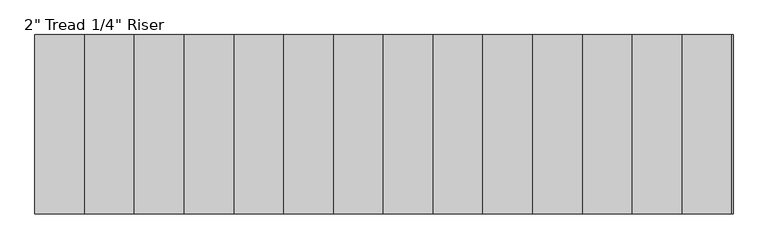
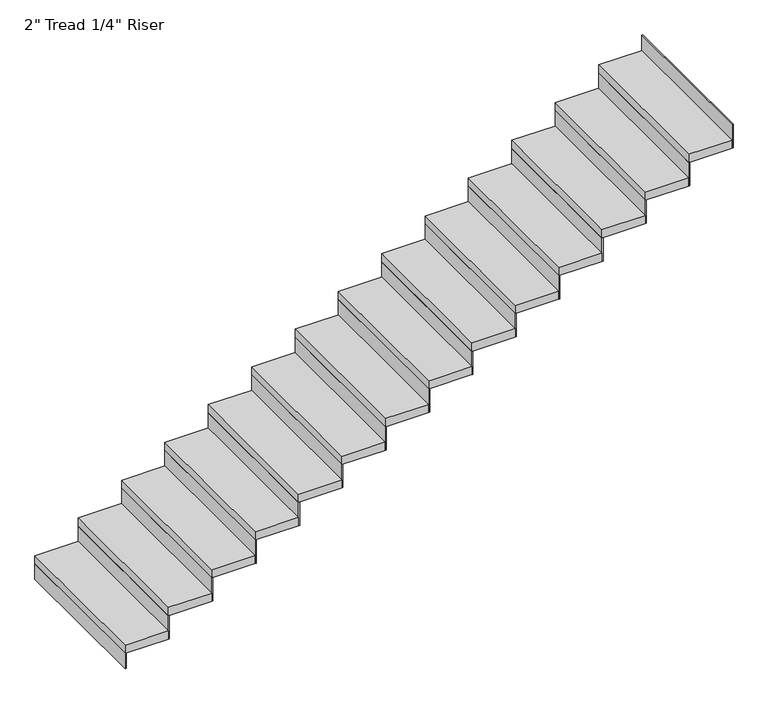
"""IFC4 building model written with IfcOpenShell, lengths in millimetres: stair flight geometry."""

import ifcopenshell
import ifcopenshell.guid

model = None  # the IFC model being written
_history = None  # IfcOwnerHistory: only IFC2X3 demands one
_inside = {}  # id of a spatial element -> (the spatial element, [elements in it])
_under = {}  # id of a project, library or spatial element -> (it, [spatial elements below it])
_declared = {}  # id of a project -> (the project, [libraries it declares])
_typed = {}  # id of a type object -> (the type object, [elements of that type])
_made_of = {}  # id of a material, layer set ... -> (it, [elements and type objects made of it])


def new_model(schema):
    """Start an empty IFC model of exactly this schema.

    Asked for "IFC4X3", IfcOpenShell would pick the latest addendum, in which some entities
    have other attributes; the version numbers below select the first issue.
    IFC2X3 requires an IfcOwnerHistory on every rooted entity: one is made here for all.
    """
    global model, _history
    if schema == "IFC4X3":
        model = ifcopenshell.file(schema_version=(4, 3, 0, 0))
    else:
        model = ifcopenshell.file(schema=schema)
    _inside.clear()
    _under.clear()
    _declared.clear()
    _typed.clear()
    _made_of.clear()
    _history = None
    if model.schema == "IFC2X3":
        org = make("IfcOrganization", Name="unknown")
        user = make(
            "IfcPersonAndOrganization",
            ThePerson=make("IfcPerson", FamilyName="unknown"),
            TheOrganization=org,
        )
        app = make(
            "IfcApplication",
            ApplicationDeveloper=org,
            Version="unknown",
            ApplicationFullName="unknown",
            ApplicationIdentifier="unknown",
        )
        _history = make(
            "IfcOwnerHistory",
            OwningUser=user,
            OwningApplication=app,
            ChangeAction="ADDED",
            CreationDate=0,
        )
    return model


def make(cls, **values):
    """One entity of the class cls with the attributes given. An attribute that is None is left unset."""
    return model.create_entity(
        cls, **{name: value for name, value in values.items() if value is not None}
    )


def rooted(cls, **values):
    """An entity with a GlobalId (a new one), such as an element, a storey or a relation."""
    return make(cls, GlobalId=ifcopenshell.guid.new(), OwnerHistory=_history, **values)


def si_unit(unit_type, name, prefix=None):
    """IfcSIUnit, for example si_unit("LENGTHUNIT", "METRE", prefix="MILLI")."""
    return make("IfcSIUnit", UnitType=unit_type, Prefix=prefix, Name=name)


def assignment(units):
    """IfcUnitAssignment: the units of a project."""
    return None if units is None else make("IfcUnitAssignment", Units=units)


def point(xyz):
    """IfcCartesianPoint."""
    return None if xyz is None else make("IfcCartesianPoint", Coordinates=xyz)


def direction(xyz):
    """IfcDirection."""
    return None if xyz is None else make("IfcDirection", DirectionRatios=xyz)


def frame(location, z_axis=None, x_axis=None):
    """IfcAxis2Placement3D, a coordinate frame: its origin and axes. An axis left out is left unset."""
    return make(
        "IfcAxis2Placement3D",
        Location=point(location),
        Axis=direction(z_axis),
        RefDirection=direction(x_axis),
    )


def origin():
    """The frame at (0, 0, 0) with its axes left unset."""
    return frame((0.0, 0.0, 0.0))


def origin_with_axes():
    """The frame at (0, 0, 0) with the z axis (0, 0, 1) and the x axis (1, 0, 0) written out."""
    return frame((0.0, 0.0, 0.0), z_axis=(0.0, 0.0, 1.0), x_axis=(1.0, 0.0, 0.0))


def place(relative_to, where):
    """IfcLocalPlacement: puts the frame where relative to a parent placement (None: the world)."""
    return make(
        "IfcLocalPlacement", PlacementRelTo=relative_to, RelativePlacement=where
    )


def context(
    kind, dimensions, precision=None, world=None, true_north=None, identifier=None
):
    """IfcGeometricRepresentationContext, for example the 3D "Model" context."""
    return make(
        "IfcGeometricRepresentationContext",
        ContextIdentifier=identifier,
        ContextType=kind,
        CoordinateSpaceDimension=dimensions,
        Precision=precision,
        WorldCoordinateSystem=world,
        TrueNorth=true_north,
    )


def project(units=None, contexts=None):
    """IfcProject with its units and contexts."""
    return rooted(
        "IfcProject",
        Name="project",
        RepresentationContexts=contexts,
        UnitsInContext=assignment(units),
    )


def spatial(cls, under=None, at=None, **own):
    """A site, building, storey or space (cls), placed at a placement, below another one or the project."""
    s = rooted(cls, ObjectPlacement=at, **own)
    if under is not None:
        _under.setdefault(under.id(), (under, []))[1].append(s)
    return s


def polyline(points):
    """IfcPolyline through the points."""
    return make("IfcPolyline", Points=[point(p) for p in points])


def outline(outer, holes=None, kind="AREA"):
    """IfcArbitraryClosedProfileDef: a profile drawn as a closed curve; with holes, ...WithVoids."""
    if holes is None:
        return make("IfcArbitraryClosedProfileDef", ProfileType=kind, OuterCurve=outer)
    return make(
        "IfcArbitraryProfileDefWithVoids",
        ProfileType=kind,
        OuterCurve=outer,
        InnerCurves=holes,
    )


def extrude(swept, where, along, depth):
    """IfcExtrudedAreaSolid: the profile swept, set in the frame where, extruded along a direction by depth."""
    return make(
        "IfcExtrudedAreaSolid",
        SweptArea=swept,
        Position=where,
        ExtrudedDirection=direction(along),
        Depth=depth,
    )


def shape(context_of_items, identifier, shape_type, items):
    """IfcShapeRepresentation: the items that make up one representation, for example the "Body"."""
    return make(
        "IfcShapeRepresentation",
        ContextOfItems=context_of_items,
        RepresentationIdentifier=identifier,
        RepresentationType=shape_type,
        Items=items,
    )


def source(mapping_origin, context_of_items, identifier, shape_type, items):
    """IfcRepresentationMap: a shape defined once, which mapped items show again and again."""
    return make(
        "IfcRepresentationMap",
        MappingOrigin=mapping_origin,
        MappedRepresentation=shape(context_of_items, identifier, shape_type, items),
    )


def transform(
    local_origin,
    x_axis=None,
    y_axis=None,
    z_axis=None,
    scale=None,
    scale2=None,
    scale3=None,
    uniform=True,
):
    """IfcCartesianTransformationOperator3D, or its non-uniform kind. x_axis, y_axis, z_axis: its Axis1, 2, 3."""
    if uniform:
        return make(
            "IfcCartesianTransformationOperator3D",
            Axis1=direction(x_axis),
            Axis2=direction(y_axis),
            LocalOrigin=point(local_origin),
            Scale=scale,
            Axis3=direction(z_axis),
        )
    return make(
        "IfcCartesianTransformationOperator3DnonUniform",
        Axis1=direction(x_axis),
        Axis2=direction(y_axis),
        LocalOrigin=point(local_origin),
        Scale=scale,
        Axis3=direction(z_axis),
        Scale2=scale2,
        Scale3=scale3,
    )


def mapped(mapping_source, mapping_target):
    """IfcMappedItem: shows the shape of a source again, moved by a transform."""
    return make(
        "IfcMappedItem", MappingSource=mapping_source, MappingTarget=mapping_target
    )


def made_of(thing, what):
    """Note that an element or type object is made of a material, layer set ...; save() writes the relation."""
    if what is not None:
        _made_of.setdefault(what.id(), (what, []))[1].append(thing)
    return thing


def element(
    cls,
    number,
    at=None,
    inside=None,
    cuts=None,
    type_object=None,
    material=None,
    context=None,
    identifier="Body",
    shape_type=None,
    held_by="IfcProductDefinitionShape",
    body=None,
    shapes=None,
    **own,
):
    """One element of the class cls, such as IfcWall. Its Tag is "e" and its number.

    at: its placement. inside: the storey or other place that contains it. cuts: it is an
    opening in that element (IfcRelVoidsElement). A single representation is given by context,
    identifier, shape_type and body (its items); several are given by shapes. held_by: the class
    of the entity that holds the representations. save() writes the other relations.
    """
    e = rooted(cls, Tag="e%d" % number, ObjectPlacement=at, **own)
    if body is not None:
        shapes = [shape(context, identifier, shape_type, body)]
    if shapes is not None:
        e.Representation = make(held_by, Representations=shapes)
    if inside is not None:
        _inside.setdefault(inside.id(), (inside, []))[1].append(e)
    if cuts is not None:
        rooted(
            "IfcRelVoidsElement", RelatingBuildingElement=cuts, RelatedOpeningElement=e
        )
    if type_object is not None:
        _typed.setdefault(type_object.id(), (type_object, []))[1].append(e)
    return made_of(e, material)


def aggregate(whole, parts):
    """IfcRelAggregates: a whole, such as a stair, and the parts it consists of."""
    return rooted("IfcRelAggregates", RelatingObject=whole, RelatedObjects=parts)


def save(model, path):
    """Write the relations noted so far, then the file.

    IfcRelAggregates (storeys below a building ...), IfcRelContainedInSpatialStructure (elements
    in a storey), IfcRelDefinesByType, IfcRelAssociatesMaterial and IfcRelDeclares: one each for
    every whole, place, type object, material and project.
    """
    for whole, parts in _under.values():
        aggregate(whole, parts)
    for where, things in _inside.values():
        rooted(
            "IfcRelContainedInSpatialStructure",
            RelatedElements=things,
            RelatingStructure=where,
        )
    for kind, things in _typed.values():
        rooted("IfcRelDefinesByType", RelatedObjects=things, RelatingType=kind)
    for what, things in _made_of.values():
        rooted("IfcRelAssociatesMaterial", RelatedObjects=things, RelatingMaterial=what)
    for by, libraries in _declared.values():
        rooted("IfcRelDeclares", RelatingContext=by, RelatedDefinitions=libraries)
    model.write(path)


def stair_flight_93a57281(model_context):
    return source(origin(), model_context, "Body", "SweptSolid", [
        extrude(outline(polyline([(-2451.0963139, 43330.9361774), (-2457.4463139, 43330.9361774), (-2457.4463139, 44245.3361774), (-2451.0963139, 44245.3361774), (-2451.0963139, 43330.9361774)])), origin_with_axes(), (0.0, 0.0, 1.0), 94.3428571),
        extrude(outline(polyline([(-2203.4463139, 44245.3361774), (-2203.4463139, 43330.9361774), (-2457.4463139, 43330.9361774), (-2457.4463139, 44245.3361774), (-2203.4463139, 44245.3361774)])), frame((0.0, 0.0, 94.3428571), z_axis=(0.0, 0.0, 1.0), x_axis=(1.0, 0.0, 0.0)), (0.0, 0.0, 1.0), 50.8),
        extrude(outline(polyline([(-2197.0963139, 43330.9361774), (-2203.4463139, 43330.9361774), (-2203.4463139, 44245.3361774), (-2197.0963139, 44245.3361774), (-2197.0963139, 43330.9361774)])), frame((0.0, 0.0, 94.3428571), z_axis=(0.0, 0.0, 1.0), x_axis=(1.0, 0.0, 0.0)), (0.0, 0.0, 1.0), 145.1428571),
        extrude(outline(polyline([(-1949.4463139, 44245.3361774), (-1949.4463139, 43330.9361774), (-2203.4463139, 43330.9361774), (-2203.4463139, 44245.3361774), (-1949.4463139, 44245.3361774)])), frame((0.0, 0.0, 239.4857143), z_axis=(0.0, 0.0, 1.0), x_axis=(1.0, 0.0, 0.0)), (0.0, 0.0, 1.0), 50.8),
        extrude(outline(polyline([(-1943.0963139, 43330.9361774), (-1949.4463139, 43330.9361774), (-1949.4463139, 44245.3361774), (-1943.0963139, 44245.3361774), (-1943.0963139, 43330.9361774)])), frame((0.0, 0.0, 239.4857143), z_axis=(0.0, 0.0, 1.0), x_axis=(1.0, 0.0, 0.0)), (0.0, 0.0, 1.0), 145.1428571),
        extrude(outline(polyline([(-1695.4463139, 44245.3361774), (-1695.4463139, 43330.9361774), (-1949.4463139, 43330.9361774), (-1949.4463139, 44245.3361774), (-1695.4463139, 44245.3361774)])), frame((0.0, 0.0, 384.6285714), z_axis=(0.0, 0.0, 1.0), x_axis=(1.0, 0.0, 0.0)), (0.0, 0.0, 1.0), 50.8),
        extrude(outline(polyline([(-1689.0963139, 43330.9361774), (-1695.4463139, 43330.9361774), (-1695.4463139, 44245.3361774), (-1689.0963139, 44245.3361774), (-1689.0963139, 43330.9361774)])), frame((0.0, 0.0, 384.6285714), z_axis=(0.0, 0.0, 1.0), x_axis=(1.0, 0.0, 0.0)), (0.0, 0.0, 1.0), 145.1428571),
        extrude(outline(polyline([(-1441.4463139, 44245.3361774), (-1441.4463139, 43330.9361774), (-1695.4463139, 43330.9361774), (-1695.4463139, 44245.3361774), (-1441.4463139, 44245.3361774)])), frame((0.0, 0.0, 529.7714286), z_axis=(0.0, 0.0, 1.0), x_axis=(1.0, 0.0, 0.0)), (0.0, 0.0, 1.0), 50.8),
        extrude(outline(polyline([(-1435.0963139, 43330.9361774), (-1441.4463139, 43330.9361774), (-1441.4463139, 44245.3361774), (-1435.0963139, 44245.3361774), (-1435.0963139, 43330.9361774)])), frame((0.0, 0.0, 529.7714286), z_axis=(0.0, 0.0, 1.0), x_axis=(1.0, 0.0, 0.0)), (0.0, 0.0, 1.0), 145.1428571),
        extrude(outline(polyline([(-1187.4463139, 44245.3361774), (-1187.4463139, 43330.9361774), (-1441.4463139, 43330.9361774), (-1441.4463139, 44245.3361774), (-1187.4463139, 44245.3361774)])), frame((0.0, 0.0, 674.9142857), z_axis=(0.0, 0.0, 1.0), x_axis=(1.0, 0.0, 0.0)), (0.0, 0.0, 1.0), 50.8),
        extrude(outline(polyline([(-1181.0963139, 43330.9361774), (-1187.4463139, 43330.9361774), (-1187.4463139, 44245.3361774), (-1181.0963139, 44245.3361774), (-1181.0963139, 43330.9361774)])), frame((0.0, 0.0, 674.9142857), z_axis=(0.0, 0.0, 1.0), x_axis=(1.0, 0.0, 0.0)), (0.0, 0.0, 1.0), 145.1428571),
        extrude(outline(polyline([(-933.4463139, 44245.3361774), (-933.4463139, 43330.9361774), (-1187.4463139, 43330.9361774), (-1187.4463139, 44245.3361774), (-933.4463139, 44245.3361774)])), frame((0.0, 0.0, 820.0571429), z_axis=(0.0, 0.0, 1.0), x_axis=(1.0, 0.0, 0.0)), (0.0, 0.0, 1.0), 50.8),
        extrude(outline(polyline([(-927.0963139, 43330.9361774), (-933.4463139, 43330.9361774), (-933.4463139, 44245.3361774), (-927.0963139, 44245.3361774), (-927.0963139, 43330.9361774)])), frame((0.0, 0.0, 820.0571429), z_axis=(0.0, 0.0, 1.0), x_axis=(1.0, 0.0, 0.0)), (0.0, 0.0, 1.0), 145.1428571),
        extrude(outline(polyline([(-679.4463139, 44245.3361774), (-679.4463139, 43330.9361774), (-933.4463139, 43330.9361774), (-933.4463139, 44245.3361774), (-679.4463139, 44245.3361774)])), frame((0.0, 0.0, 965.2), z_axis=(0.0, 0.0, 1.0), x_axis=(1.0, 0.0, 0.0)), (0.0, 0.0, 1.0), 50.8),
        extrude(outline(polyline([(-673.0963139, 43330.9361774), (-679.4463139, 43330.9361774), (-679.4463139, 44245.3361774), (-673.0963139, 44245.3361774), (-673.0963139, 43330.9361774)])), frame((0.0, 0.0, 965.2), z_axis=(0.0, 0.0, 1.0), x_axis=(1.0, 0.0, 0.0)), (0.0, 0.0, 1.0), 145.1428571),
        extrude(outline(polyline([(-425.4463139, 44245.3361774), (-425.4463139, 43330.9361774), (-679.4463139, 43330.9361774), (-679.4463139, 44245.3361774), (-425.4463139, 44245.3361774)])), frame((0.0, 0.0, 1110.3428571), z_axis=(0.0, 0.0, 1.0), x_axis=(1.0, 0.0, 0.0)), (0.0, 0.0, 1.0), 50.8),
        extrude(outline(polyline([(-419.0963139, 43330.9361774), (-425.4463139, 43330.9361774), (-425.4463139, 44245.3361774), (-419.0963139, 44245.3361774), (-419.0963139, 43330.9361774)])), frame((0.0, 0.0, 1110.3428571), z_axis=(0.0, 0.0, 1.0), x_axis=(1.0, 0.0, 0.0)), (0.0, 0.0, 1.0), 145.1428571),
        extrude(outline(polyline([(-171.4463139, 44245.3361774), (-171.4463139, 43330.9361774), (-425.4463139, 43330.9361774), (-425.4463139, 44245.3361774), (-171.4463139, 44245.3361774)])), frame((0.0, 0.0, 1255.4857143), z_axis=(0.0, 0.0, 1.0), x_axis=(1.0, 0.0, 0.0)), (0.0, 0.0, 1.0), 50.8),
        extrude(outline(polyline([(-165.0963139, 43330.9361774), (-171.4463139, 43330.9361774), (-171.4463139, 44245.3361774), (-165.0963139, 44245.3361774), (-165.0963139, 43330.9361774)])), frame((0.0, 0.0, 1255.4857143), z_axis=(0.0, 0.0, 1.0), x_axis=(1.0, 0.0, 0.0)), (0.0, 0.0, 1.0), 145.1428571),
        extrude(outline(polyline([(82.5536861, 44245.3361774), (82.5536861, 43330.9361774), (-171.4463139, 43330.9361774), (-171.4463139, 44245.3361774), (82.5536861, 44245.3361774)])), frame((0.0, 0.0, 1400.6285714), z_axis=(0.0, 0.0, 1.0), x_axis=(1.0, 0.0, 0.0)), (0.0, 0.0, 1.0), 50.8),
        extrude(outline(polyline([(88.9036861, 43330.9361774), (82.5536861, 43330.9361774), (82.5536861, 44245.3361774), (88.9036861, 44245.3361774), (88.9036861, 43330.9361774)])), frame((0.0, 0.0, 1400.6285714), z_axis=(0.0, 0.0, 1.0), x_axis=(1.0, 0.0, 0.0)), (0.0, 0.0, 1.0), 145.1428571),
        extrude(outline(polyline([(336.5536861, 44245.3361774), (336.5536861, 43330.9361774), (82.5536861, 43330.9361774), (82.5536861, 44245.3361774), (336.5536861, 44245.3361774)])), frame((0.0, 0.0, 1545.7714286), z_axis=(0.0, 0.0, 1.0), x_axis=(1.0, 0.0, 0.0)), (0.0, 0.0, 1.0), 50.8),
        extrude(outline(polyline([(342.9036861, 43330.9361774), (336.5536861, 43330.9361774), (336.5536861, 44245.3361774), (342.9036861, 44245.3361774), (342.9036861, 43330.9361774)])), frame((0.0, 0.0, 1545.7714286), z_axis=(0.0, 0.0, 1.0), x_axis=(1.0, 0.0, 0.0)), (0.0, 0.0, 1.0), 145.1428571),
        extrude(outline(polyline([(590.5536861, 44245.3361774), (590.5536861, 43330.9361774), (336.5536861, 43330.9361774), (336.5536861, 44245.3361774), (590.5536861, 44245.3361774)])), frame((0.0, 0.0, 1690.9142857), z_axis=(0.0, 0.0, 1.0), x_axis=(1.0, 0.0, 0.0)), (0.0, 0.0, 1.0), 50.8),
        extrude(outline(polyline([(596.9036861, 43330.9361774), (590.5536861, 43330.9361774), (590.5536861, 44245.3361774), (596.9036861, 44245.3361774), (596.9036861, 43330.9361774)])), frame((0.0, 0.0, 1690.9142857), z_axis=(0.0, 0.0, 1.0), x_axis=(1.0, 0.0, 0.0)), (0.0, 0.0, 1.0), 145.1428571),
        extrude(outline(polyline([(844.5536861, 44245.3361774), (844.5536861, 43330.9361774), (590.5536861, 43330.9361774), (590.5536861, 44245.3361774), (844.5536861, 44245.3361774)])), frame((0.0, 0.0, 1836.0571429), z_axis=(0.0, 0.0, 1.0), x_axis=(1.0, 0.0, 0.0)), (0.0, 0.0, 1.0), 50.8),
        extrude(outline(polyline([(850.9036861, 43330.9361774), (844.5536861, 43330.9361774), (844.5536861, 44245.3361774), (850.9036861, 44245.3361774), (850.9036861, 43330.9361774)])), frame((0.0, 0.0, 1836.0571429), z_axis=(0.0, 0.0, 1.0), x_axis=(1.0, 0.0, 0.0)), (0.0, 0.0, 1.0), 145.1428571),
        extrude(outline(polyline([(1104.9036861, 43330.9361774), (1098.5536861, 43330.9361774), (1098.5536861, 44245.3361774), (1104.9036861, 44245.3361774), (1104.9036861, 43330.9361774)])), frame((0.0, 0.0, 1981.2), z_axis=(0.0, 0.0, 1.0), x_axis=(1.0, 0.0, 0.0)), (0.0, 0.0, 1.0), 145.1428571),
        extrude(outline(polyline([(1098.5536861, 44245.3361774), (1098.5536861, 43330.9361774), (844.5536861, 43330.9361774), (844.5536861, 44245.3361774), (1098.5536861, 44245.3361774)])), frame((0.0, 0.0, 1981.2), z_axis=(0.0, 0.0, 1.0), x_axis=(1.0, 0.0, 0.0)), (0.0, 0.0, 1.0), 50.8),
    ])


if __name__ == "__main__":
    model = new_model("IFC4")
    model_context = context("Model", 3, world=origin())
    ifc_project = project(units=[si_unit("LENGTHUNIT", "METRE", prefix="MILLI")], contexts=[model_context])
    site = spatial("IfcSite", under=ifc_project)
    building = spatial("IfcBuilding", under=site)
    placement = place(None, origin())
    stair_flight_shape = stair_flight_93a57281(model_context)
    element("IfcStairFlight", 1, ObjectType="2\" Tread 1/4\" Riser", at=placement, inside=building, context=model_context, shape_type="MappedRepresentation", body=[
        mapped(stair_flight_shape, transform((0.0, 0.0, 0.0), x_axis=(1.0, 0.0, 0.0), y_axis=(0.0, 1.0, 0.0), z_axis=(0.0, 0.0, 1.0))),
    ])
    save(model, "model.ifc")
